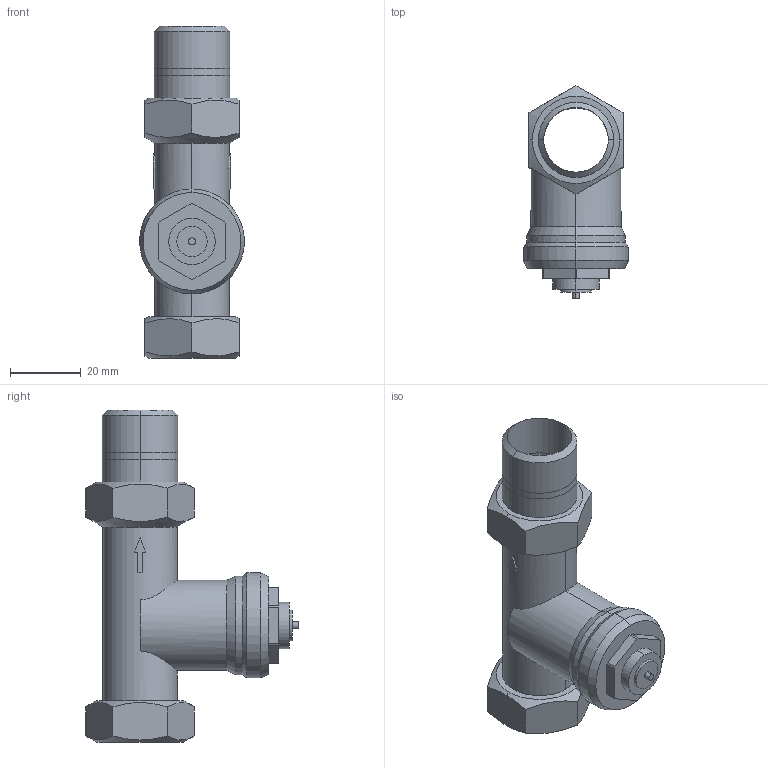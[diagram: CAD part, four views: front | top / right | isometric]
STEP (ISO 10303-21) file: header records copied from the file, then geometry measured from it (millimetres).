
FILE_DESCRIPTION((''),'2;1');
FILE_NAME('000001.stp','2006-09-29T17:13:38',(''),(''),'Mechanical Desktop 2006','Mechanical Desktop 2006',', , ');
FILE_SCHEMA(('AUTOMOTIVE_DESIGN { 1 2 10303 214 0 1 1 1 }'));
Length unit declared in the file: millimetre
Products named in the file (1): Product
Bounding box: 29.7 x 60.18 x 94 mm (x, y, z)
Volume: 30758.7 mm3; surface area: 18424.7 mm2
Topology: 9 solids, 9 shells, 110 faces, 257 edges, 166 vertices
Faces by surface type: plane 49, cylinder 32, cone 18, bspline 11
Entity records: 3629 total; most frequent: CARTESIAN_POINT 1128, ORIENTED_EDGE 514, DIRECTION 505, EDGE_CURVE 257, AXIS2_PLACEMENT_3D 192, VERTEX_POINT 166, VECTOR 121, LINE 121
